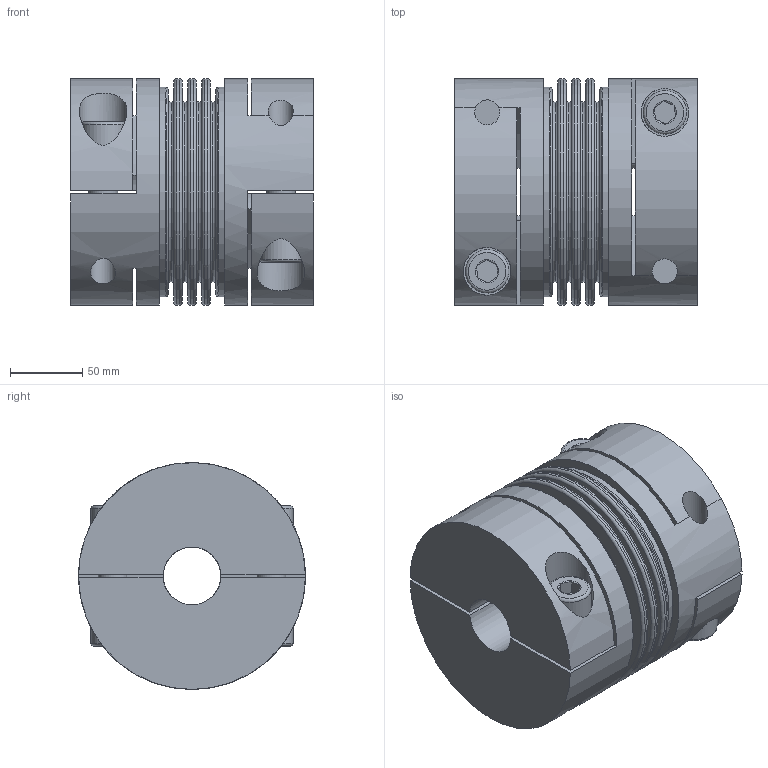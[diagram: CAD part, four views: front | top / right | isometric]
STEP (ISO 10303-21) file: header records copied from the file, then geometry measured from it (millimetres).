
FILE_DESCRIPTION( ( 'Unknown' ), '1' );
FILE_NAME( 'K:/Konstruktion/Homepage/KB4/KB4-800-168.stp', 'Unknown', ( 'Unknown' ), ( 'Unknown' ), 'PSStep 16.0.42', 'Unknown', ' ' );
FILE_SCHEMA( ( 'AUTOMOTIVE_DESIGN { 1 0 10303 214 1 1 1 1 }' ) );
Length unit declared in the file: millimetre
Products named in the file (7): KN1400; KN1400_0; BK 1400; BK 1400_0; ISO EN DIN 4762 M20x60; Assem1
Assembly tree (10 placements, depth 3):
  Assem1
    BK 1400
      BK 1400_0
    KN1400  x2
      KN1400_0
    ISO EN DIN 4762 M20x60  x4
      ISO EN DIN 4762 M20x60
Bounding box: 168 x 157 x 157 mm (x, y, z)
Volume: 2279421.8 mm3; surface area: 378491.6 mm2
Topology: 7 solids, 7 shells, 190 faces, 393 edges, 247 vertices
Faces by surface type: plane 90, cylinder 52, torus 24, cone 24
Full cylindrical faces by diameter (mm): 17.294 x4, 18 x4, 20 x8, 22 x4, 30 x4, 33 x4, 40 x2, 80 x2, 123.3 x1, 144 x4, 145 x2, 157 x5
Entity records: 3336 total; most frequent: CARTESIAN_POINT 811, DIRECTION 398, ORIENTED_EDGE 248, AXIS2_PLACEMENT_3D 183, EDGE_LOOP 156, FACE_OUTER_BOUND 127, EDGE_CURVE 124, VERTEX_POINT 100
